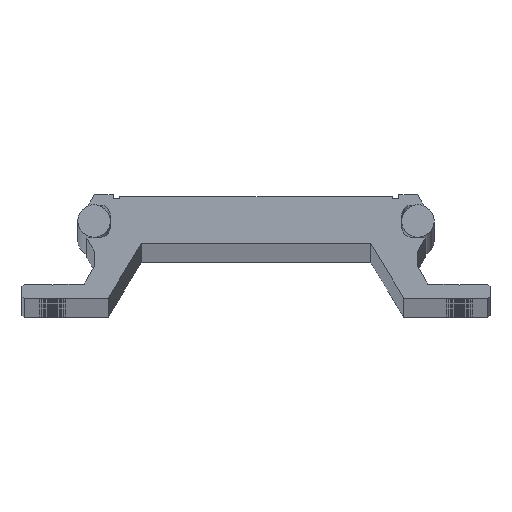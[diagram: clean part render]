
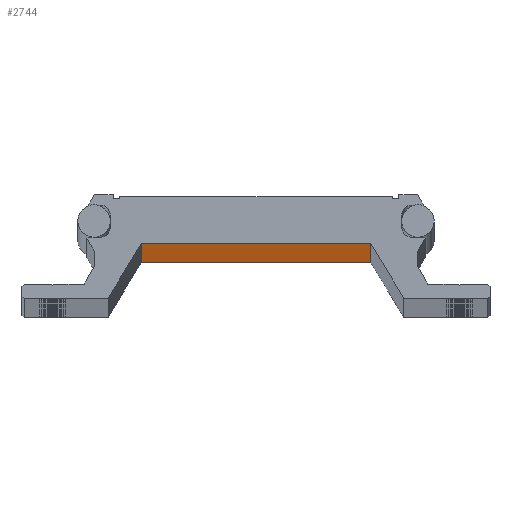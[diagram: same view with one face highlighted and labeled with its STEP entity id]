
A CAD part, top view. The second image highlights one B-rep face of the part: STEP entity #2744.
In plain terms, the highlighted planar face has unit normal (0, -1, 0).
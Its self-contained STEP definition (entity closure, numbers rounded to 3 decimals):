
#2689 = ORIENTED_EDGE ( 'NONE', *, *, #2690, .F. ) ;
#2690 = EDGE_CURVE ( 'NONE', #2691, #2748, #7744, .T. ) ;
#2691 = VERTEX_POINT ( 'NONE', #7740 ) ;
#2692 = ORIENTED_EDGE ( 'NONE', *, *, #2808, .T. ) ;
#2703 = VERTEX_POINT ( 'NONE', #7698 ) ;
#2743 = VERTEX_POINT ( 'NONE', #7874 ) ;
#2744 = ADVANCED_FACE ( 'NONE', ( #7873 ), #7872, .T. ) ;
#2745 = EDGE_LOOP ( 'NONE', ( #2746, #2689, #2692, #5975 ) ) ;
#2746 = ORIENTED_EDGE ( 'NONE', *, *, #2747, .F. ) ;
#2747 = EDGE_CURVE ( 'NONE', #2748, #2743, #7867, .T. ) ;
#2748 = VERTEX_POINT ( 'NONE', #7863 ) ;
#2750 = EDGE_CURVE ( 'NONE', #2703, #2743, #7862, .T. ) ;
#2808 = EDGE_CURVE ( 'NONE', #2691, #2703, #8000, .T. ) ;
#5975 = ORIENTED_EDGE ( 'NONE', *, *, #2750, .T. ) ;
#7698 = CARTESIAN_POINT ( 'NONE',  ( 28.2, 13.5, -2696. ) ) ;
#7740 = CARTESIAN_POINT ( 'NONE',  ( -28.2, 13.5, -2696. ) ) ;
#7741 = DIRECTION ( 'NONE',  ( 0., 0., 1. ) ) ;
#7742 = VECTOR ( 'NONE', #7741, 1000. ) ;
#7743 = CARTESIAN_POINT ( 'NONE',  ( -28.2, 13.5, -2696. ) ) ;
#7744 = LINE ( 'NONE', #7743, #7742 ) ;
#7859 = DIRECTION ( 'NONE',  ( 0., 0., 1. ) ) ;
#7860 = VECTOR ( 'NONE', #7859, 1000. ) ;
#7861 = CARTESIAN_POINT ( 'NONE',  ( 28.2, 13.5, -2696. ) ) ;
#7862 = LINE ( 'NONE', #7861, #7860 ) ;
#7863 = CARTESIAN_POINT ( 'NONE',  ( -28.2, 13.5, 0. ) ) ;
#7864 = DIRECTION ( 'NONE',  ( 1., 0., 0. ) ) ;
#7865 = VECTOR ( 'NONE', #7864, 1000. ) ;
#7866 = CARTESIAN_POINT ( 'NONE',  ( 28.2, 13.5, 0. ) ) ;
#7867 = LINE ( 'NONE', #7866, #7865 ) ;
#7868 = DIRECTION ( 'NONE',  ( 0., 0., -1. ) ) ;
#7869 = DIRECTION ( 'NONE',  ( 0., -1., 0. ) ) ;
#7870 = CARTESIAN_POINT ( 'NONE',  ( 28.2, 13.5, -2696. ) ) ;
#7871 = AXIS2_PLACEMENT_3D ( 'NONE', #7870, #7869, #7868 ) ;
#7872 = PLANE ( 'NONE',  #7871 ) ;
#7873 = FACE_OUTER_BOUND ( 'NONE', #2745, .T. ) ;
#7874 = CARTESIAN_POINT ( 'NONE',  ( 28.2, 13.5, 0. ) ) ;
#7997 = DIRECTION ( 'NONE',  ( 1., 0., 0. ) ) ;
#7998 = VECTOR ( 'NONE', #7997, 1000. ) ;
#7999 = CARTESIAN_POINT ( 'NONE',  ( 28.2, 13.5, -2696. ) ) ;
#8000 = LINE ( 'NONE', #7999, #7998 ) ;
